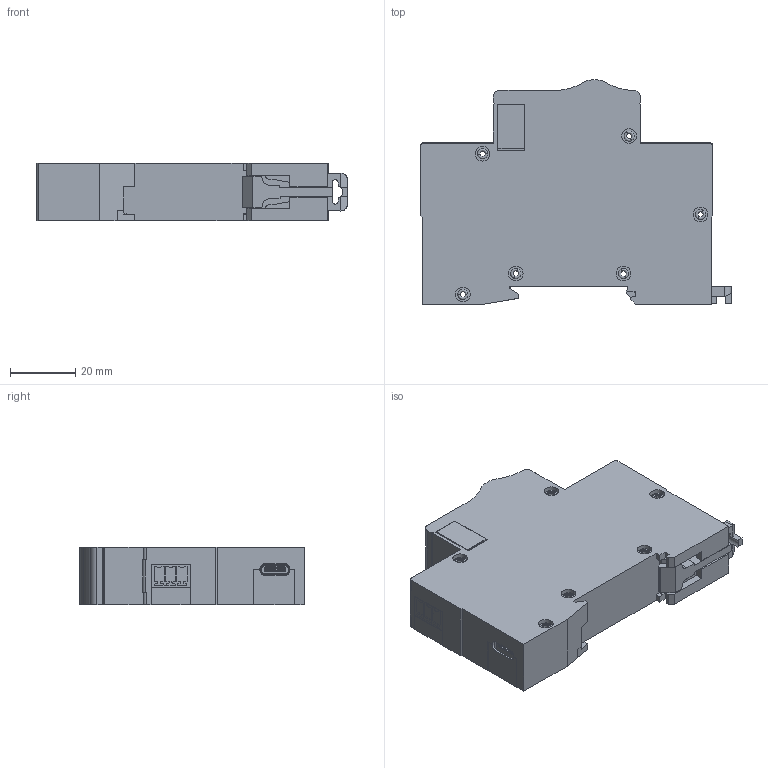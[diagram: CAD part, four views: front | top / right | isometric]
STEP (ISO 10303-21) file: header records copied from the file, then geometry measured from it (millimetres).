
FILE_DESCRIPTION (( 'STEP AP214' ), '1' );
FILE_NAME ('DF-TMB RS485 籵捅耀輸.step', '2023-12-13T06:32:16', ( '' ), ( '' ), 'SwSTEP 2.0', 'SolidWorks 2018', '' );
FILE_SCHEMA (( 'AUTOMOTIVE_DESIGN' ));
Length unit declared in the file: millimetre
Products named in the file (1): DF-TMB RS485 籵捅耀輸
Bounding box: 95.12 x 68.78 x 17.6 mm (x, y, z)
Surface area: 49274.9 mm2 (no closed solid volume)
Topology: 0 solids, 30 shells, 2771 faces, 7564 edges, 4981 vertices
Faces by surface type: plane 1834, cylinder 590, bspline 240, cone 59, torus 48
Entity records: 127990 total; most frequent: CARTESIAN_POINT 28398, ORIENTED_EDGE 15046, DIRECTION 12896, EDGE_CURVE 7564, LINE 5538, VECTOR 5538, VERTEX_POINT 4981, AXIS2_PLACEMENT_3D 3679
